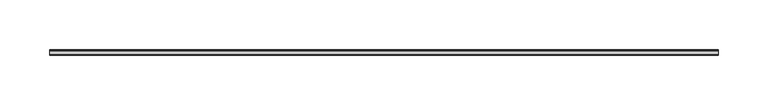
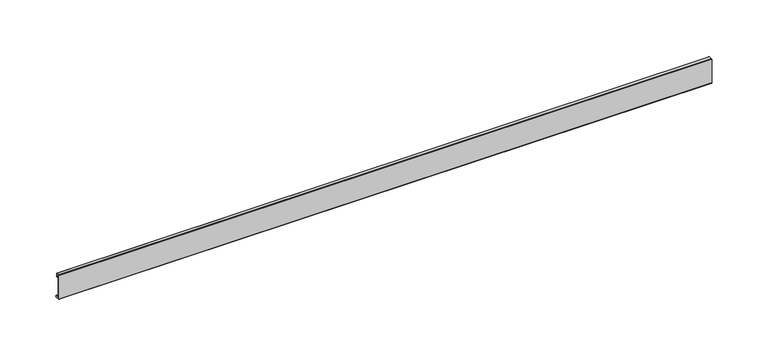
"""IFC4 building model written with IfcOpenShell, lengths in millimetres: proxy geometry, Weiku - Montante - Capa de folha 02.3.02.406 : Weiku - Montante - Capa de folha 02.3.02.406."""

import ifcopenshell
import ifcopenshell.guid

model = None  # the IFC model being written
_history = None  # IfcOwnerHistory: only IFC2X3 demands one
_inside = {}  # id of a spatial element -> (the spatial element, [elements in it])
_under = {}  # id of a project, library or spatial element -> (it, [spatial elements below it])
_declared = {}  # id of a project -> (the project, [libraries it declares])
_typed = {}  # id of a type object -> (the type object, [elements of that type])
_made_of = {}  # id of a material, layer set ... -> (it, [elements and type objects made of it])


def new_model(schema):
    """Start an empty IFC model of exactly this schema.

    Asked for "IFC4X3", IfcOpenShell would pick the latest addendum, in which some entities
    have other attributes; the version numbers below select the first issue.
    IFC2X3 requires an IfcOwnerHistory on every rooted entity: one is made here for all.
    """
    global model, _history
    if schema == "IFC4X3":
        model = ifcopenshell.file(schema_version=(4, 3, 0, 0))
    else:
        model = ifcopenshell.file(schema=schema)
    _inside.clear()
    _under.clear()
    _declared.clear()
    _typed.clear()
    _made_of.clear()
    _history = None
    if model.schema == "IFC2X3":
        org = make("IfcOrganization", Name="unknown")
        user = make(
            "IfcPersonAndOrganization",
            ThePerson=make("IfcPerson", FamilyName="unknown"),
            TheOrganization=org,
        )
        app = make(
            "IfcApplication",
            ApplicationDeveloper=org,
            Version="unknown",
            ApplicationFullName="unknown",
            ApplicationIdentifier="unknown",
        )
        _history = make(
            "IfcOwnerHistory",
            OwningUser=user,
            OwningApplication=app,
            ChangeAction="ADDED",
            CreationDate=0,
        )
    return model


def make(cls, **values):
    """One entity of the class cls with the attributes given. An attribute that is None is left unset."""
    return model.create_entity(
        cls, **{name: value for name, value in values.items() if value is not None}
    )


def rooted(cls, **values):
    """An entity with a GlobalId (a new one), such as an element, a storey or a relation."""
    return make(cls, GlobalId=ifcopenshell.guid.new(), OwnerHistory=_history, **values)


def si_unit(unit_type, name, prefix=None):
    """IfcSIUnit, for example si_unit("LENGTHUNIT", "METRE", prefix="MILLI")."""
    return make("IfcSIUnit", UnitType=unit_type, Prefix=prefix, Name=name)


def assignment(units):
    """IfcUnitAssignment: the units of a project."""
    return None if units is None else make("IfcUnitAssignment", Units=units)


def point(xyz):
    """IfcCartesianPoint."""
    return None if xyz is None else make("IfcCartesianPoint", Coordinates=xyz)


def direction(xyz):
    """IfcDirection."""
    return None if xyz is None else make("IfcDirection", DirectionRatios=xyz)


def frame(location, z_axis=None, x_axis=None):
    """IfcAxis2Placement3D, a coordinate frame: its origin and axes. An axis left out is left unset."""
    return make(
        "IfcAxis2Placement3D",
        Location=point(location),
        Axis=direction(z_axis),
        RefDirection=direction(x_axis),
    )


def frame_2d(location, x_axis=None):
    """IfcAxis2Placement2D, a coordinate frame in the plane: its origin and x axis."""
    return make(
        "IfcAxis2Placement2D", Location=point(location), RefDirection=direction(x_axis)
    )


def origin():
    """The frame at (0, 0, 0) with its axes left unset."""
    return frame((0.0, 0.0, 0.0))


def place(relative_to, where):
    """IfcLocalPlacement: puts the frame where relative to a parent placement (None: the world)."""
    return make(
        "IfcLocalPlacement", PlacementRelTo=relative_to, RelativePlacement=where
    )


def context(
    kind, dimensions, precision=None, world=None, true_north=None, identifier=None
):
    """IfcGeometricRepresentationContext, for example the 3D "Model" context."""
    return make(
        "IfcGeometricRepresentationContext",
        ContextIdentifier=identifier,
        ContextType=kind,
        CoordinateSpaceDimension=dimensions,
        Precision=precision,
        WorldCoordinateSystem=world,
        TrueNorth=true_north,
    )


def project(units=None, contexts=None):
    """IfcProject with its units and contexts."""
    return rooted(
        "IfcProject",
        Name="project",
        RepresentationContexts=contexts,
        UnitsInContext=assignment(units),
    )


def spatial(cls, under=None, at=None, **own):
    """A site, building, storey or space (cls), placed at a placement, below another one or the project."""
    s = rooted(cls, ObjectPlacement=at, **own)
    if under is not None:
        _under.setdefault(under.id(), (under, []))[1].append(s)
    return s


def polyline(points):
    """IfcPolyline through the points."""
    return make("IfcPolyline", Points=[point(p) for p in points])


def circle_curve(where, radius):
    """IfcCircle in the frame where."""
    return make("IfcCircle", Position=where, Radius=radius)


def trimmed(basis, trim1, trim2, sense, master):
    """IfcTrimmedCurve: the piece of a basis curve between two trims."""
    return make(
        "IfcTrimmedCurve",
        BasisCurve=basis,
        Trim1=trim1,
        Trim2=trim2,
        SenseAgreement=sense,
        MasterRepresentation=master,
    )


def segment(curve, same_sense, transition):
    """IfcCompositeCurveSegment."""
    return make(
        "IfcCompositeCurveSegment",
        Transition=transition,
        SameSense=same_sense,
        ParentCurve=curve,
    )


def composite_curve(segments, self_intersect=None):
    """IfcCompositeCurve: segments joined end to end."""
    return make("IfcCompositeCurve", Segments=segments, SelfIntersect=self_intersect)


def outline(outer, holes=None, kind="AREA"):
    """IfcArbitraryClosedProfileDef: a profile drawn as a closed curve; with holes, ...WithVoids."""
    if holes is None:
        return make("IfcArbitraryClosedProfileDef", ProfileType=kind, OuterCurve=outer)
    return make(
        "IfcArbitraryProfileDefWithVoids",
        ProfileType=kind,
        OuterCurve=outer,
        InnerCurves=holes,
    )


def extrude(swept, where, along, depth):
    """IfcExtrudedAreaSolid: the profile swept, set in the frame where, extruded along a direction by depth."""
    return make(
        "IfcExtrudedAreaSolid",
        SweptArea=swept,
        Position=where,
        ExtrudedDirection=direction(along),
        Depth=depth,
    )


def shape(context_of_items, identifier, shape_type, items):
    """IfcShapeRepresentation: the items that make up one representation, for example the "Body"."""
    return make(
        "IfcShapeRepresentation",
        ContextOfItems=context_of_items,
        RepresentationIdentifier=identifier,
        RepresentationType=shape_type,
        Items=items,
    )


def source(mapping_origin, context_of_items, identifier, shape_type, items):
    """IfcRepresentationMap: a shape defined once, which mapped items show again and again."""
    return make(
        "IfcRepresentationMap",
        MappingOrigin=mapping_origin,
        MappedRepresentation=shape(context_of_items, identifier, shape_type, items),
    )


def transform(
    local_origin,
    x_axis=None,
    y_axis=None,
    z_axis=None,
    scale=None,
    scale2=None,
    scale3=None,
    uniform=True,
):
    """IfcCartesianTransformationOperator3D, or its non-uniform kind. x_axis, y_axis, z_axis: its Axis1, 2, 3."""
    if uniform:
        return make(
            "IfcCartesianTransformationOperator3D",
            Axis1=direction(x_axis),
            Axis2=direction(y_axis),
            LocalOrigin=point(local_origin),
            Scale=scale,
            Axis3=direction(z_axis),
        )
    return make(
        "IfcCartesianTransformationOperator3DnonUniform",
        Axis1=direction(x_axis),
        Axis2=direction(y_axis),
        LocalOrigin=point(local_origin),
        Scale=scale,
        Axis3=direction(z_axis),
        Scale2=scale2,
        Scale3=scale3,
    )


def mapped(mapping_source, mapping_target):
    """IfcMappedItem: shows the shape of a source again, moved by a transform."""
    return make(
        "IfcMappedItem", MappingSource=mapping_source, MappingTarget=mapping_target
    )


def made_of(thing, what):
    """Note that an element or type object is made of a material, layer set ...; save() writes the relation."""
    if what is not None:
        _made_of.setdefault(what.id(), (what, []))[1].append(thing)
    return thing


def element(
    cls,
    number,
    at=None,
    inside=None,
    cuts=None,
    type_object=None,
    material=None,
    context=None,
    identifier="Body",
    shape_type=None,
    held_by="IfcProductDefinitionShape",
    body=None,
    shapes=None,
    **own,
):
    """One element of the class cls, such as IfcWall. Its Tag is "e" and its number.

    at: its placement. inside: the storey or other place that contains it. cuts: it is an
    opening in that element (IfcRelVoidsElement). A single representation is given by context,
    identifier, shape_type and body (its items); several are given by shapes. held_by: the class
    of the entity that holds the representations. save() writes the other relations.
    """
    e = rooted(cls, Tag="e%d" % number, ObjectPlacement=at, **own)
    if body is not None:
        shapes = [shape(context, identifier, shape_type, body)]
    if shapes is not None:
        e.Representation = make(held_by, Representations=shapes)
    if inside is not None:
        _inside.setdefault(inside.id(), (inside, []))[1].append(e)
    if cuts is not None:
        rooted(
            "IfcRelVoidsElement", RelatingBuildingElement=cuts, RelatedOpeningElement=e
        )
    if type_object is not None:
        _typed.setdefault(type_object.id(), (type_object, []))[1].append(e)
    return made_of(e, material)


def aggregate(whole, parts):
    """IfcRelAggregates: a whole, such as a stair, and the parts it consists of."""
    return rooted("IfcRelAggregates", RelatingObject=whole, RelatedObjects=parts)


def save(model, path):
    """Write the relations noted so far, then the file.

    IfcRelAggregates (storeys below a building ...), IfcRelContainedInSpatialStructure (elements
    in a storey), IfcRelDefinesByType, IfcRelAssociatesMaterial and IfcRelDeclares: one each for
    every whole, place, type object, material and project.
    """
    for whole, parts in _under.values():
        aggregate(whole, parts)
    for where, things in _inside.values():
        rooted(
            "IfcRelContainedInSpatialStructure",
            RelatedElements=things,
            RelatingStructure=where,
        )
    for kind, things in _typed.values():
        rooted("IfcRelDefinesByType", RelatedObjects=things, RelatingType=kind)
    for what, things in _made_of.values():
        rooted("IfcRelAssociatesMaterial", RelatedObjects=things, RelatingMaterial=what)
    for by, libraries in _declared.values():
        rooted("IfcRelDeclares", RelatingContext=by, RelatedDefinitions=libraries)
    model.write(path)


def generic_models_73b2a808(model_context):
    return source(origin(), model_context, "Body", "SweptSolid", [
        extrude(outline(composite_curve([segment(polyline([(4.6421508, 2.2715508), (5.3603515, 1.056104)]), True, "CONTINUOUS"), segment(trimmed(circle_curve(frame_2d((4.7576991, 0.7)), 0.7), [point((5.3603515, 1.056104))], [point((4.7576991, 0.0))], False, "CARTESIAN"), True, "CONTINUOUS"), segment(polyline([(4.7576991, 0.0), (0.5, 0.0)]), True, "CONTINUOUS"), segment(trimmed(circle_curve(frame_2d((0.5, 0.5)), 0.5), [point((0.5, 0.0))], [point((0.0, 0.5))], False, "CARTESIAN"), True, "CONTINUOUS"), segment(polyline([(0.0, 0.5), (0.0, 26.2)]), True, "CONTINUOUS"), segment(trimmed(circle_curve(frame_2d((0.5, 26.2)), 0.5), [point((0.0, 26.2))], [point((0.5, 26.7))], False, "CARTESIAN"), True, "CONTINUOUS"), segment(polyline([(0.5, 26.7), (3.78, 26.7)]), True, "CONTINUOUS"), segment(trimmed(circle_curve(frame_2d((3.78, 26.2)), 0.5), [point((3.78, 26.7))], [point((4.28, 26.2))], False, "CARTESIAN"), True, "CONTINUOUS"), segment(polyline([(4.28, 26.2), (4.28, 22.3396), (3.3063, 22.3396), (3.3063, 25.684), (1.6933, 25.684), (1.6933, 1.016), (3.3866, 1.016), (4.6421508, 2.2715508)]), True, "CONTINUOUS")], self_intersect=False)), frame((-337.1, 0.0, 0.0), z_axis=(1.0, 0.0, 0.0), x_axis=(0.0, 1.0, 0.0)), (0.0, 0.0, 1.0), 674.2),
    ])


if __name__ == "__main__":
    model = new_model("IFC4")
    model_context = context("Model", 3, world=origin())
    ifc_project = project(units=[si_unit("LENGTHUNIT", "METRE", prefix="MILLI")], contexts=[model_context])
    site = spatial("IfcSite", under=ifc_project)
    building = spatial("IfcBuilding", under=site)
    placement = place(None, origin())
    generic_models_shape = generic_models_73b2a808(model_context)
    element("IfcBuildingElementProxy", 1, Name="Weiku - Montante - Capa de folha 02.3.02.406 : Weiku - Montante - Capa de folha 02.3.02.406", ObjectType="Weiku - Montante - Capa de folha 02.3.02.406 : Weiku - Montante - Capa de folha 02.3.02.406", at=placement, inside=building, context=model_context, shape_type="MappedRepresentation", body=[
        mapped(generic_models_shape, transform((0.0, 0.0, 0.0), x_axis=(1.0, 0.0, 0.0), y_axis=(0.0, 1.0, 0.0), z_axis=(0.0, 0.0, 1.0))),
    ])
    save(model, "model.ifc")
